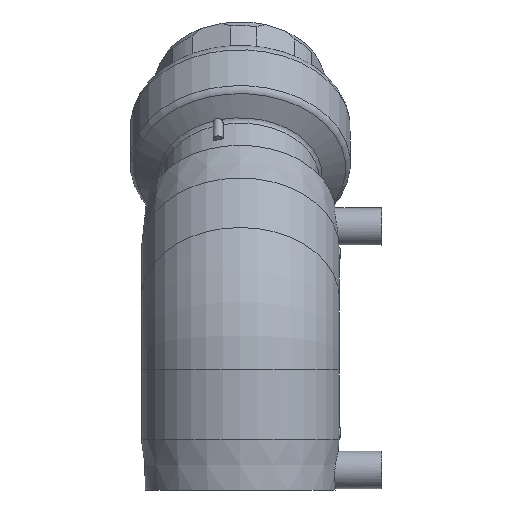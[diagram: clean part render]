
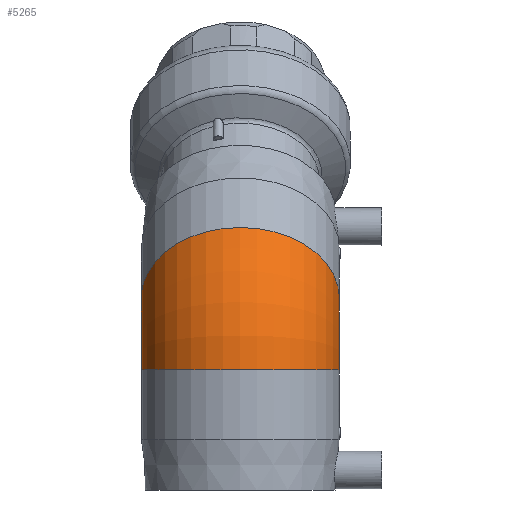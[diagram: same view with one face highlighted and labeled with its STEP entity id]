
A CAD part, left-side view. The second image highlights one B-rep face of the part: STEP entity #5265.
In plain terms, the highlighted toroidal (fillet/blend) face has major radius 41.042 mm and minor radius 39.5 mm.
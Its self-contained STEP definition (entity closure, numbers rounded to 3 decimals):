
#336=TOROIDAL_SURFACE('',#6731,41.042,39.5);
#988=ORIENTED_EDGE('',*,*,#2635,.T.);
#989=ORIENTED_EDGE('',*,*,#2636,.F.);
#2635=EDGE_CURVE('',#3464,#3464,#4034,.F.);
#2636=EDGE_CURVE('',#3465,#3465,#4035,.F.);
#3464=VERTEX_POINT('',#8372);
#3465=VERTEX_POINT('',#8375);
#4034=CIRCLE('',#6730,39.5);
#4035=CIRCLE('',#6732,39.5);
#4297=EDGE_LOOP('',(#988));
#4298=EDGE_LOOP('',(#989));
#4738=FACE_BOUND('',#4297,.T.);
#4739=FACE_BOUND('',#4298,.T.);
#5265=ADVANCED_FACE('',(#4738,#4739),#336,.T.);
#6730=AXIS2_PLACEMENT_3D('',#8371,#7247,#7248);
#6731=AXIS2_PLACEMENT_3D('',#8373,#7249,#7250);
#6732=AXIS2_PLACEMENT_3D('',#8374,#7251,#7252);
#7247=DIRECTION('',(0.,0.,-1.));
#7248=DIRECTION('',(1.,0.,0.));
#7249=DIRECTION('',(0.,1.,0.));
#7250=DIRECTION('',(0.,0.,1.));
#7251=DIRECTION('',(-0.707,0.,-0.707));
#7252=DIRECTION('',(0.707,0.,-0.707));
#8371=CARTESIAN_POINT('',(0.,0.,-17.));
#8372=CARTESIAN_POINT('',(39.5,0.,-17.));
#8373=CARTESIAN_POINT('',(41.042,0.,-17.));
#8374=CARTESIAN_POINT('',(12.021,0.,12.021));
#8375=CARTESIAN_POINT('',(39.952,0.,-15.91));
